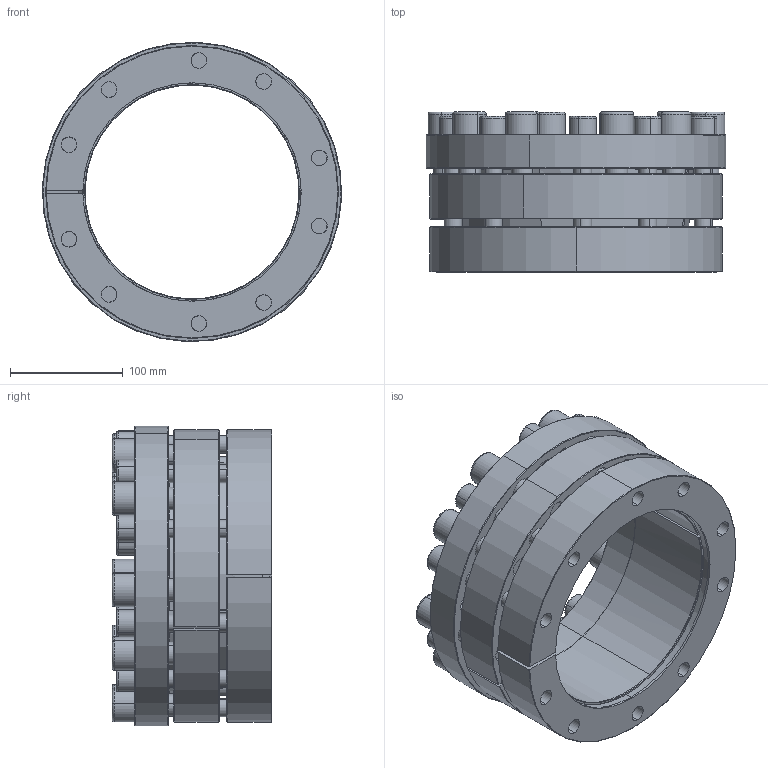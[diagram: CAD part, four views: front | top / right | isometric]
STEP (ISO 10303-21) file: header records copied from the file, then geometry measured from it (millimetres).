
FILE_DESCRIPTION (( 'STEP AP214' ), '1' );
FILE_NAME ('CONEX-P-190x260-P-003.step', '2015-11-30T21:13:52', ( '' ), ( '' ), 'SwSTEP 2.0', 'SolidWorks 2013', '' );
FILE_SCHEMA (( 'AUTOMOTIVE_DESIGN' ));
Length unit declared in the file: millimetre
Products named in the file (1): CONEX-P-190x260-P-003
Bounding box: 265.84 x 142 x 265.84 mm (x, y, z)
Volume: 2950083.8 mm3; surface area: 639735.2 mm2
Topology: 23 solids, 23 shells, 731 faces, 1687 edges, 1003 vertices
Faces by surface type: plane 321, cylinder 209, cone 119, torus 82
Entity records: 28915 total; most frequent: DIRECTION 3870, CARTESIAN_POINT 3516, ORIENTED_EDGE 3294, EDGE_CURVE 1647, AXIS2_PLACEMENT_3D 1523, VERTEX_POINT 1003, EDGE_LOOP 882, LINE 824
